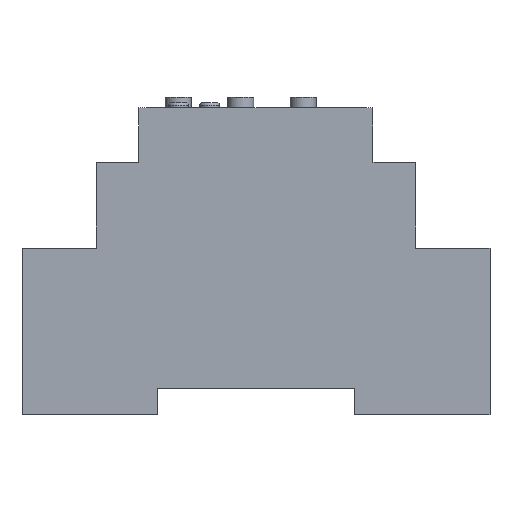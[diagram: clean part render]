
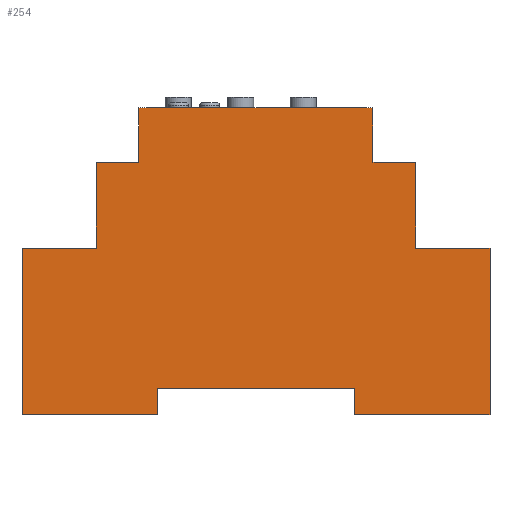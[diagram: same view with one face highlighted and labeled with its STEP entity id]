
A CAD part, left-side view. The second image highlights one B-rep face of the part: STEP entity #254.
In plain terms, the highlighted planar face has unit normal (-1, 0, 0).
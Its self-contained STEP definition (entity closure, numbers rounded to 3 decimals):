
#254=ADVANCED_FACE('',(#6647),#6649,.T.);
#6647=FACE_BOUND('',#6648,.T.);
#6648=EDGE_LOOP('',(#11765,#11766,#11767,#11768,#11769,#11770,#11771,#11772,#11773,
#11774,#11775,#11776,#11777,#11778,#11779,#11780));
#6649=PLANE('',#6650);
#6650=AXIS2_PLACEMENT_3D('',#6651,#6652,#6653);
#6651=CARTESIAN_POINT('',(-35.,0.,0.));
#6652=DIRECTION('',(-1.,0.,0.));
#6653=DIRECTION('',(0.,0.,-1.));
#11765=ORIENTED_EDGE('',*,*,#15938,.T.);
#11766=ORIENTED_EDGE('',*,*,#15906,.T.);
#11767=ORIENTED_EDGE('',*,*,#15932,.T.);
#11768=ORIENTED_EDGE('',*,*,#15939,.T.);
#11769=ORIENTED_EDGE('',*,*,#15940,.T.);
#11770=ORIENTED_EDGE('',*,*,#15941,.T.);
#11771=ORIENTED_EDGE('',*,*,#15942,.T.);
#11772=ORIENTED_EDGE('',*,*,#15943,.T.);
#11773=ORIENTED_EDGE('',*,*,#15944,.T.);
#11774=ORIENTED_EDGE('',*,*,#15945,.T.);
#11775=ORIENTED_EDGE('',*,*,#15946,.T.);
#11776=ORIENTED_EDGE('',*,*,#15947,.T.);
#11777=ORIENTED_EDGE('',*,*,#15948,.T.);
#11778=ORIENTED_EDGE('',*,*,#15949,.T.);
#11779=ORIENTED_EDGE('',*,*,#15950,.T.);
#11780=ORIENTED_EDGE('',*,*,#15951,.T.);
#15906=EDGE_CURVE('',#17749,#17747,#17750,.T.);
#15932=EDGE_CURVE('',#17747,#17793,#17795,.T.);
#15938=EDGE_CURVE('',#17805,#17749,#17806,.T.);
#15939=EDGE_CURVE('',#17793,#17807,#17808,.T.);
#15940=EDGE_CURVE('',#17807,#17809,#17810,.T.);
#15941=EDGE_CURVE('',#17809,#17811,#17812,.T.);
#15942=EDGE_CURVE('',#17811,#17813,#17814,.T.);
#15943=EDGE_CURVE('',#17813,#17815,#17816,.T.);
#15944=EDGE_CURVE('',#17815,#17817,#17818,.T.);
#15945=EDGE_CURVE('',#17817,#17819,#17820,.T.);
#15946=EDGE_CURVE('',#17819,#17821,#17822,.T.);
#15947=EDGE_CURVE('',#17821,#17823,#17824,.T.);
#15948=EDGE_CURVE('',#17823,#17825,#17826,.T.);
#15949=EDGE_CURVE('',#17825,#17827,#17828,.T.);
#15950=EDGE_CURVE('',#17827,#17829,#17830,.T.);
#15951=EDGE_CURVE('',#17829,#17805,#17831,.T.);
#17747=VERTEX_POINT('',#20848);
#17749=VERTEX_POINT('',#20852);
#17750=LINE('',#20853,#20854);
#17793=VERTEX_POINT('',#20950);
#17795=LINE('',#20954,#20955);
#17805=VERTEX_POINT('',#20980);
#17806=LINE('',#20981,#20982);
#17807=VERTEX_POINT('',#20984);
#17808=LINE('',#20985,#20986);
#17809=VERTEX_POINT('',#20988);
#17810=LINE('',#20989,#20990);
#17811=VERTEX_POINT('',#20992);
#17812=LINE('',#20993,#20994);
#17813=VERTEX_POINT('',#20996);
#17814=LINE('',#20997,#20998);
#17815=VERTEX_POINT('',#21000);
#17816=LINE('',#21001,#21002);
#17817=VERTEX_POINT('',#21004);
#17818=LINE('',#21005,#21006);
#17819=VERTEX_POINT('',#21008);
#17820=LINE('',#21009,#21010);
#17821=VERTEX_POINT('',#21012);
#17822=LINE('',#21013,#21014);
#17823=VERTEX_POINT('',#21016);
#17824=LINE('',#21017,#21018);
#17825=VERTEX_POINT('',#21020);
#17826=LINE('',#21021,#21022);
#17827=VERTEX_POINT('',#21024);
#17828=LINE('',#21025,#21026);
#17829=VERTEX_POINT('',#21028);
#17830=LINE('',#21029,#21030);
#17831=LINE('',#21032,#21033);
#20848=CARTESIAN_POINT('',(-35.,-45.,27.));
#20852=CARTESIAN_POINT('',(-35.,-45.,-5.));
#20853=CARTESIAN_POINT('',(-35.,-45.,-5.));
#20854=VECTOR('',#20855,1.);
#20855=DIRECTION('',(0.,0.,1.));
#20950=CARTESIAN_POINT('',(-35.,-30.75,27.));
#20954=CARTESIAN_POINT('',(-35.,-45.,27.));
#20955=VECTOR('',#20956,1.);
#20956=DIRECTION('',(0.,1.,0.));
#20980=CARTESIAN_POINT('',(-35.,-19.,-5.));
#20981=CARTESIAN_POINT('',(-35.,-19.,-5.));
#20982=VECTOR('',#20983,1.);
#20983=DIRECTION('',(0.,-1.,0.));
#20984=CARTESIAN_POINT('',(-35.,-30.75,43.5));
#20985=CARTESIAN_POINT('',(-35.,-30.75,27.));
#20986=VECTOR('',#20987,1.);
#20987=DIRECTION('',(0.,0.,1.));
#20988=CARTESIAN_POINT('',(-35.,-22.5,43.5));
#20989=CARTESIAN_POINT('',(-35.,-30.75,43.5));
#20990=VECTOR('',#20991,1.);
#20991=DIRECTION('',(0.,1.,0.));
#20992=CARTESIAN_POINT('',(-35.,-22.5,54.));
#20993=CARTESIAN_POINT('',(-35.,-22.5,43.5));
#20994=VECTOR('',#20995,1.);
#20995=DIRECTION('',(0.,0.,1.));
#20996=CARTESIAN_POINT('',(-35.,22.5,54.));
#20997=CARTESIAN_POINT('',(-35.,-22.5,54.));
#20998=VECTOR('',#20999,1.);
#20999=DIRECTION('',(0.,1.,0.));
#21000=CARTESIAN_POINT('',(-35.,22.5,43.5));
#21001=CARTESIAN_POINT('',(-35.,22.5,54.));
#21002=VECTOR('',#21003,1.);
#21003=DIRECTION('',(0.,0.,-1.));
#21004=CARTESIAN_POINT('',(-35.,30.75,43.5));
#21005=CARTESIAN_POINT('',(-35.,22.5,43.5));
#21006=VECTOR('',#21007,1.);
#21007=DIRECTION('',(0.,1.,0.));
#21008=CARTESIAN_POINT('',(-35.,30.75,27.));
#21009=CARTESIAN_POINT('',(-35.,30.75,43.5));
#21010=VECTOR('',#21011,1.);
#21011=DIRECTION('',(0.,0.,-1.));
#21012=CARTESIAN_POINT('',(-35.,45.,27.));
#21013=CARTESIAN_POINT('',(-35.,30.75,27.));
#21014=VECTOR('',#21015,1.);
#21015=DIRECTION('',(0.,1.,0.));
#21016=CARTESIAN_POINT('',(-35.,45.,-5.));
#21017=CARTESIAN_POINT('',(-35.,45.,27.));
#21018=VECTOR('',#21019,1.);
#21019=DIRECTION('',(0.,0.,-1.));
#21020=CARTESIAN_POINT('',(-35.,19.,-5.));
#21021=CARTESIAN_POINT('',(-35.,45.,-5.));
#21022=VECTOR('',#21023,1.);
#21023=DIRECTION('',(0.,-1.,0.));
#21024=CARTESIAN_POINT('',(-35.,19.,0.));
#21025=CARTESIAN_POINT('',(-35.,19.,-5.));
#21026=VECTOR('',#21027,1.);
#21027=DIRECTION('',(0.,0.,1.));
#21028=CARTESIAN_POINT('',(-35.,-19.,0.));
#21029=CARTESIAN_POINT('',(-35.,19.,0.));
#21030=VECTOR('',#21031,1.);
#21031=DIRECTION('',(0.,-1.,0.));
#21032=CARTESIAN_POINT('',(-35.,-19.,0.));
#21033=VECTOR('',#21034,1.);
#21034=DIRECTION('',(0.,0.,-1.));
